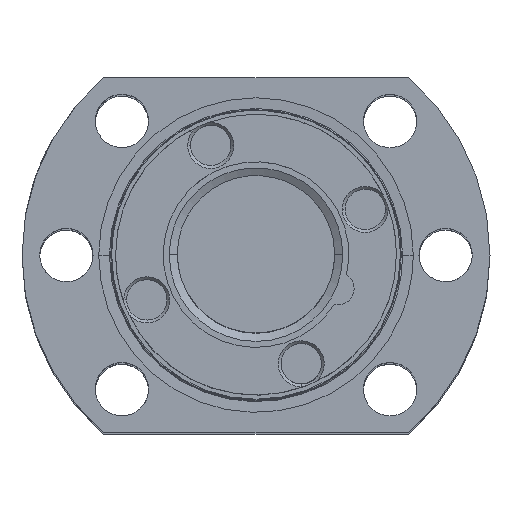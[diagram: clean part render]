
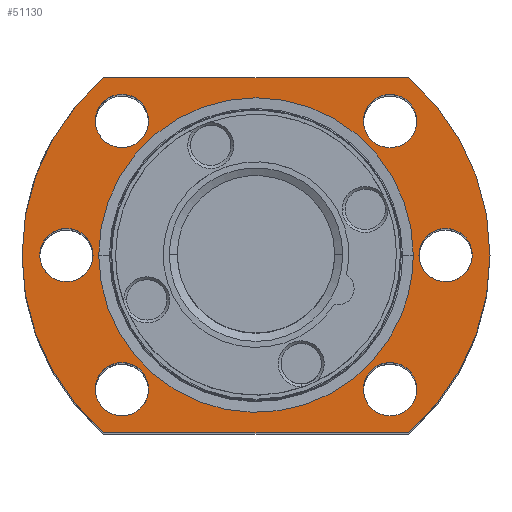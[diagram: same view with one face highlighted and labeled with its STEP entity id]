
A CAD part, top view. The second image highlights one B-rep face of the part: STEP entity #51130.
In plain terms, the highlighted planar face has unit normal (0, 0, 1).
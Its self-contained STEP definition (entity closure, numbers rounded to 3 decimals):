
#49390=CARTESIAN_POINT('',(53.413,-30.559,191.5));
#49400=DIRECTION('',(0.,0.,-1.));
#49410=DIRECTION('',(-1.,0.,-0.));
#49420=AXIS2_PLACEMENT_3D('',#49390,#49400,#49410);
#49430=PLANE('',#49420);
#49440=CARTESIAN_POINT('',(0.,-22.,191.5));
#49450=DIRECTION('',(1.,0.,-0.));
#49460=VECTOR('',#49450,1.);
#49470=LINE('',#49440,#49460);
#49480=CARTESIAN_POINT('',(-18.894,-22.,191.5));
#49490=VERTEX_POINT('',#49480);
#49500=CARTESIAN_POINT('',(18.894,-22.,191.5));
#49510=VERTEX_POINT('',#49500);
#49520=EDGE_CURVE('',#49490,#49510,#49470,.T.);
#49530=ORIENTED_EDGE('',*,*,#49520,.T.);
#49540=CARTESIAN_POINT('',(0.,0.,
191.5));
#49550=DIRECTION('',(0.,0.,-1.));
#49560=DIRECTION('',(-1.,0.,0.));
#49570=AXIS2_PLACEMENT_3D('',#49540,#49550,#49560);
#49580=CIRCLE('',#49570,29.);
#49590=CARTESIAN_POINT('',(-18.894,22.,191.5));
#49600=VERTEX_POINT('',#49590);
#49610=EDGE_CURVE('',#49490,#49600,#49580,.T.);
#49620=ORIENTED_EDGE('',*,*,#49610,.F.);
#49630=CARTESIAN_POINT('',(0.,22.,191.5));
#49640=DIRECTION('',(1.,-0.,0.));
#49650=VECTOR('',#49640,1.);
#49660=LINE('',#49630,#49650);
#49670=CARTESIAN_POINT('',(18.894,22.,191.5));
#49680=VERTEX_POINT('',#49670);
#49690=EDGE_CURVE('',#49600,#49680,#49660,.T.);
#49700=ORIENTED_EDGE('',*,*,#49690,.F.);
#49710=CARTESIAN_POINT('',(0.,0.,
191.5));
#49720=DIRECTION('',(0.,0.,-1.));
#49730=DIRECTION('',(-1.,0.,0.));
#49740=AXIS2_PLACEMENT_3D('',#49710,#49720,#49730);
#49750=CIRCLE('',#49740,29.);
#49760=EDGE_CURVE('',#49680,#49510,#49750,.T.);
#49770=ORIENTED_EDGE('',*,*,#49760,.F.);
#49780=EDGE_LOOP('',(#49770,#49700,#49620,#49530));
#49790=FACE_OUTER_BOUND('',#49780,.T.);
#49800=CARTESIAN_POINT('',(-16.617,16.617,191.5));
#49810=DIRECTION('',(0.,0.,-1.));
#49820=DIRECTION('',(-1.,0.,0.));
#49830=AXIS2_PLACEMENT_3D('',#49800,#49810,#49820);
#49840=CIRCLE('',#49830,3.3);
#49850=CARTESIAN_POINT('',(-19.917,16.617,191.5));
#49860=VERTEX_POINT('',#49850);
#49870=CARTESIAN_POINT('',(-13.317,16.617,191.5));
#49880=VERTEX_POINT('',#49870);
#49890=EDGE_CURVE('',#49860,#49880,#49840,.T.);
#49900=ORIENTED_EDGE('',*,*,#49890,.T.);
#49910=CARTESIAN_POINT('',(-15.354,13.568,191.5));
#49920=VERTEX_POINT('',#49910);
#49930=EDGE_CURVE('',#49920,#49860,#49840,.T.);
#49940=ORIENTED_EDGE('',*,*,#49930,.T.);
#49950=EDGE_CURVE('',#49880,#49920,#49840,.T.);
#49960=ORIENTED_EDGE('',*,*,#49950,.T.);
#49970=EDGE_LOOP('',(#49960,#49940,#49900));
#49980=FACE_BOUND('',#49970,.T.);
#49990=CARTESIAN_POINT('',(-16.617,-16.617,191.5));
#50000=DIRECTION('',(0.,0.,-1.));
#50010=DIRECTION('',(-1.,0.,0.));
#50020=AXIS2_PLACEMENT_3D('',#49990,#50000,#50010);
#50030=CIRCLE('',#50020,3.3);
#50040=CARTESIAN_POINT('',(-19.917,-16.617,191.5));
#50050=VERTEX_POINT('',#50040);
#50060=CARTESIAN_POINT('',(-13.317,-16.617,191.5));
#50070=VERTEX_POINT('',#50060);
#50080=EDGE_CURVE('',#50050,#50070,#50030,.T.);
#50090=ORIENTED_EDGE('',*,*,#50080,.T.);
#50100=CARTESIAN_POINT('',(-15.354,-19.666,191.5));
#50110=VERTEX_POINT('',#50100);
#50120=EDGE_CURVE('',#50110,#50050,#50030,.T.);
#50130=ORIENTED_EDGE('',*,*,#50120,.T.);
#50140=EDGE_CURVE('',#50070,#50110,#50030,.T.);
#50150=ORIENTED_EDGE('',*,*,#50140,.T.);
#50160=EDGE_LOOP('',(#50150,#50130,#50090));
#50170=FACE_BOUND('',#50160,.T.);
#50180=CARTESIAN_POINT('',(0.,0.,
191.5));
#50190=DIRECTION('',(0.,0.,1.));
#50200=DIRECTION('',(1.,0.,0.));
#50210=AXIS2_PLACEMENT_3D('',#50180,#50190,#50200);
#50220=CIRCLE('',#50210,19.491);
#50230=CARTESIAN_POINT('',(18.007,-7.459,191.5));
#50240=VERTEX_POINT('',#50230);
#50250=CARTESIAN_POINT('',(19.491,0.,191.5))
;
#50260=VERTEX_POINT('',#50250);
#50270=EDGE_CURVE('',#50240,#50260,#50220,.T.);
#50280=ORIENTED_EDGE('',*,*,#50270,.F.);
#50290=CARTESIAN_POINT('',(-19.491,0.,191.5)
);
#50300=VERTEX_POINT('',#50290);
#50310=EDGE_CURVE('',#50260,#50300,#50220,.T.);
#50320=ORIENTED_EDGE('',*,*,#50310,.F.);
#50330=EDGE_CURVE('',#50300,#50240,#50220,.T.);
#50340=ORIENTED_EDGE('',*,*,#50330,.F.);
#50350=EDGE_LOOP('',(#50340,#50320,#50280));
#50360=FACE_BOUND('',#50350,.T.);
#50370=CARTESIAN_POINT('',(16.617,16.617,191.5));
#50380=DIRECTION('',(0.,0.,-1.));
#50390=DIRECTION('',(-1.,0.,0.));
#50400=AXIS2_PLACEMENT_3D('',#50370,#50380,#50390);
#50410=CIRCLE('',#50400,3.3);
#50420=CARTESIAN_POINT('',(19.917,16.617,191.5));
#50430=VERTEX_POINT('',#50420);
#50440=CARTESIAN_POINT('',(13.317,16.617,191.5));
#50450=VERTEX_POINT('',#50440);
#50460=EDGE_CURVE('',#50430,#50450,#50410,.T.);
#50470=ORIENTED_EDGE('',*,*,#50460,.T.);
#50480=CARTESIAN_POINT('',(15.354,19.666,191.5));
#50490=VERTEX_POINT('',#50480);
#50500=EDGE_CURVE('',#50490,#50430,#50410,.T.);
#50510=ORIENTED_EDGE('',*,*,#50500,.T.);
#50520=EDGE_CURVE('',#50450,#50490,#50410,.T.);
#50530=ORIENTED_EDGE('',*,*,#50520,.T.);
#50540=EDGE_LOOP('',(#50530,#50510,#50470));
#50550=FACE_BOUND('',#50540,.T.);
#50560=CARTESIAN_POINT('',(23.5,0.,191.5));
#50570=DIRECTION('',(0.,0.,-1.));
#50580=DIRECTION('',(-1.,0.,0.));
#50590=AXIS2_PLACEMENT_3D('',#50560,#50570,#50580);
#50600=CIRCLE('',#50590,3.3);
#50610=CARTESIAN_POINT('',(20.2,0.,191.5));
#50620=VERTEX_POINT('',#50610);
#50630=CARTESIAN_POINT('',(26.8,0.,191.5));
#50640=VERTEX_POINT('',#50630);
#50650=EDGE_CURVE('',#50620,#50640,#50600,.T.);
#50660=ORIENTED_EDGE('',*,*,#50650,.T.);
#50670=CARTESIAN_POINT('',(24.763,-3.049,191.5));
#50680=VERTEX_POINT('',#50670);
#50690=EDGE_CURVE('',#50680,#50620,#50600,.T.);
#50700=ORIENTED_EDGE('',*,*,#50690,.T.);
#50710=EDGE_CURVE('',#50640,#50680,#50600,.T.);
#50720=ORIENTED_EDGE('',*,*,#50710,.T.);
#50730=EDGE_LOOP('',(#50720,#50700,#50660));
#50740=FACE_BOUND('',#50730,.T.);
#50750=CARTESIAN_POINT('',(16.617,-16.617,191.5));
#50760=DIRECTION('',(0.,0.,-1.));
#50770=DIRECTION('',(-1.,0.,0.));
#50780=AXIS2_PLACEMENT_3D('',#50750,#50760,#50770);
#50790=CIRCLE('',#50780,3.3);
#50800=CARTESIAN_POINT('',(19.917,-16.617,191.5));
#50810=VERTEX_POINT('',#50800);
#50820=CARTESIAN_POINT('',(13.317,-16.617,191.5));
#50830=VERTEX_POINT('',#50820);
#50840=EDGE_CURVE('',#50810,#50830,#50790,.T.);
#50850=ORIENTED_EDGE('',*,*,#50840,.T.);
#50860=CARTESIAN_POINT('',(15.354,-13.568,191.5));
#50870=VERTEX_POINT('',#50860);
#50880=EDGE_CURVE('',#50870,#50810,#50790,.T.);
#50890=ORIENTED_EDGE('',*,*,#50880,.T.);
#50900=EDGE_CURVE('',#50830,#50870,#50790,.T.);
#50910=ORIENTED_EDGE('',*,*,#50900,.T.);
#50920=EDGE_LOOP('',(#50910,#50890,#50850));
#50930=FACE_BOUND('',#50920,.T.);
#50940=CARTESIAN_POINT('',(-23.5,0.,191.5));
#50950=DIRECTION('',(0.,0.,-1.));
#50960=DIRECTION('',(-1.,0.,0.));
#50970=AXIS2_PLACEMENT_3D('',#50940,#50950,#50960);
#50980=CIRCLE('',#50970,3.3);
#50990=CARTESIAN_POINT('',(-20.2,0.,191.5));
#51000=VERTEX_POINT('',#50990);
#51010=CARTESIAN_POINT('',(-26.8,0.,191.5));
#51020=VERTEX_POINT('',#51010);
#51030=EDGE_CURVE('',#51000,#51020,#50980,.T.);
#51040=ORIENTED_EDGE('',*,*,#51030,.T.);
#51050=CARTESIAN_POINT('',(-24.763,3.049,191.5));
#51060=VERTEX_POINT('',#51050);
#51070=EDGE_CURVE('',#51060,#51000,#50980,.T.);
#51080=ORIENTED_EDGE('',*,*,#51070,.T.);
#51090=EDGE_CURVE('',#51020,#51060,#50980,.T.);
#51100=ORIENTED_EDGE('',*,*,#51090,.T.);
#51110=EDGE_LOOP('',(#51100,#51080,#51040));
#51120=FACE_BOUND('',#51110,.T.);
#51130=ADVANCED_FACE('',(#49790,#49980,#50170,#50360,#50550,#50740,
#50930,#51120),#49430,.F.);
